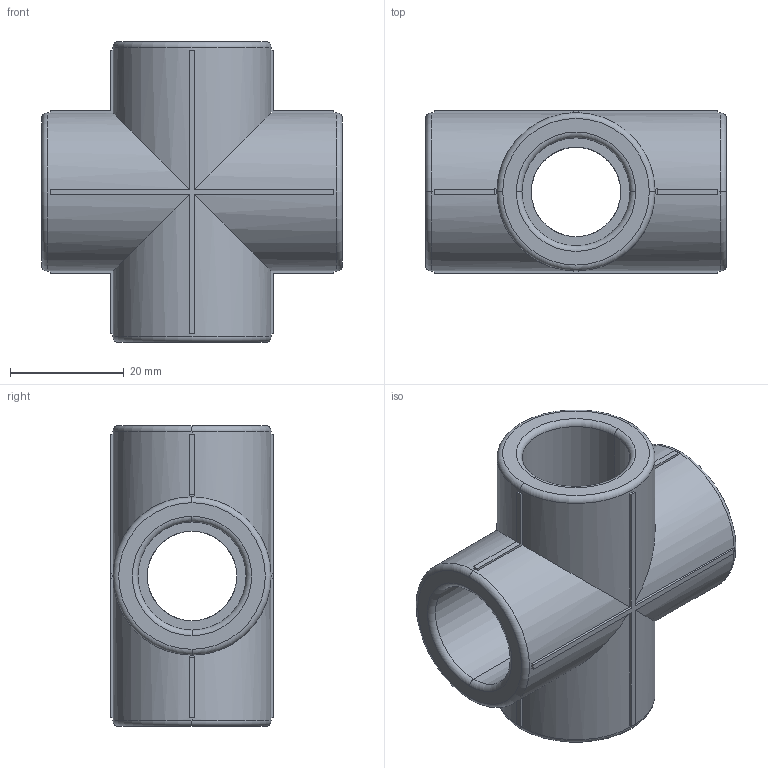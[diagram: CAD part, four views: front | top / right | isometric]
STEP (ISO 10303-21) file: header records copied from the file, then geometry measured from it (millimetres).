
FILE_DESCRIPTION (( 'STEP AP203' ), '1' );
FILE_NAME ('PPH01 FADO.STEP', '2022-08-23T14:02:55', ( '' ), ( '' ), 'SwSTEP 2.0', 'SolidWorks 2021', '' );
FILE_SCHEMA (( 'CONFIG_CONTROL_DESIGN' ));
Length unit declared in the file: millimetre
Products named in the file (1): PPH01 FADO
Bounding box: 52.9 x 28.6 x 52.9 mm (x, y, z)
Volume: 26270.3 mm3; surface area: 12667.3 mm2
Topology: 1 solids, 1 shells, 98 faces, 252 edges, 158 vertices
Faces by surface type: plane 58, cylinder 24, torus 16
Entity records: 3053 total; most frequent: CARTESIAN_POINT 557, DIRECTION 522, ORIENTED_EDGE 504, EDGE_CURVE 252, AXIS2_PLACEMENT_3D 187, VERTEX_POINT 158, VECTOR 148, LINE 148
